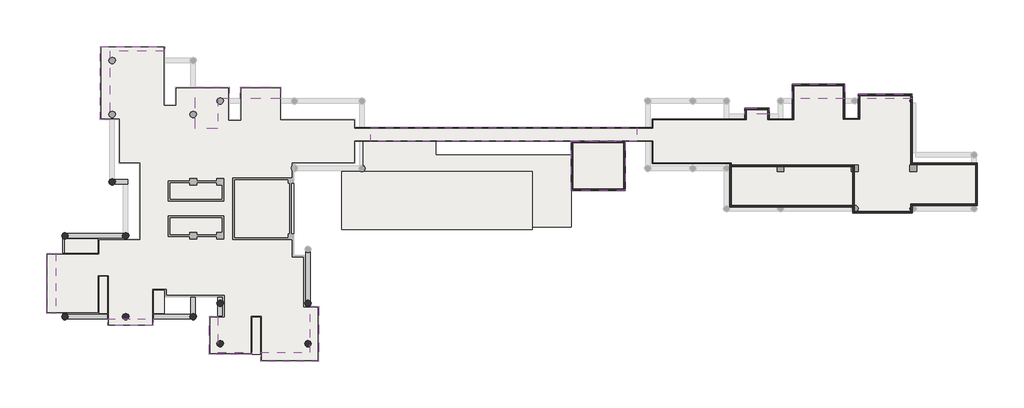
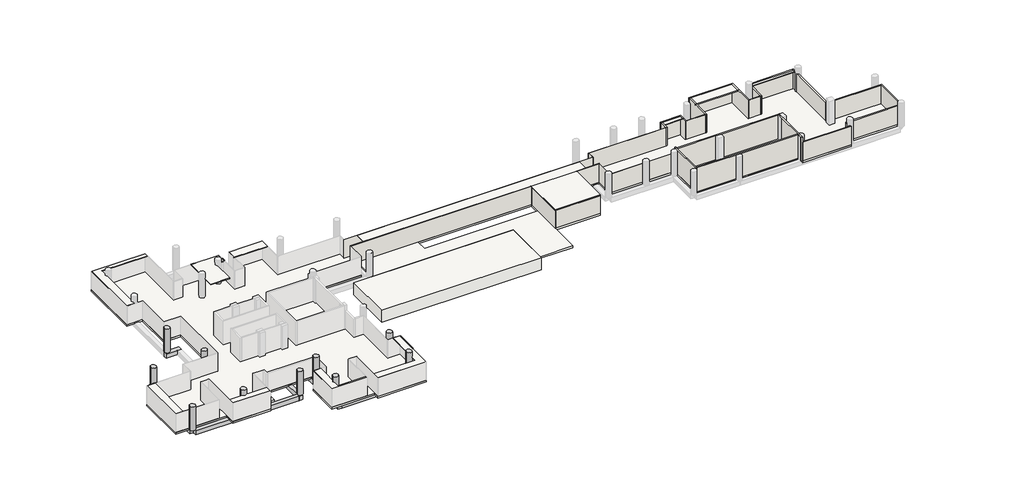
# One storey, part 2 of 3: 32 walls, 14 beams, 14 slabs, 10 columns.
"""IFC4 building model written with IfcOpenShell, lengths in millimetres."""

from ifc_helpers import new_model, si_unit, point, frame, frame_2d, origin, place, context, project, spatial, polyline, circle_curve, trimmed, segment, composite_curve, outline, extrude, faceted_brep, transform, mapped, element, save
from components import ajn_arc_ossature_rec_ba_700x600_5242ffbb, ajn_arc_ossature_rec_ba_700x600_4d623bda, ajn_arc_ossature_rec_ba_700x600_1618760c, ajn_arc_ossature_rec_ba_700x600_74f247c5, ajn_arc_ossature_rec_ba_700x600_5363c8ec, ajn_arc_ossature_rec_ba_700x600_64ced9d5, ajn_arc_ossature_rec_ba_700x600_cc927ea2, ajn_arc_ossature_rec_ba_700x600_2fd1ddb7, ajn_arc_ossature_rec_ba_700x600_5c9015f2, ajn_arc_ossature_rec_ba_700x600_09f7f53f, ajn_arc_ossature_rec_ba_700x600_428e4c06, ajn_arc_ossature_rec_ba_700x600_c2a8f1af, ajn_arc_ossature_rec_ba_700x600_4319a5e8, ajn_arc_ossature_rec_ba_700x600_f102b2b9, ajn_arc_poteau_circulaire_86033a3a

model = new_model("IFC4")

# Units and contexts
model_context = context("Model", 3, world=origin())
ifc_project = project(units=[si_unit("LENGTHUNIT", "METRE", prefix="MILLI")], contexts=[model_context])

# Site, building, storey
site = spatial("IfcSite", under=ifc_project)
building = spatial("IfcBuilding", under=site)
storey = spatial("IfcBuildingStorey", under=building, Name="TW-L 02", Elevation=5999.9999686)

# Beams
placement = place(None, origin())
ajn_arc_ossature_rec_ba_700x600_shape = ajn_arc_ossature_rec_ba_700x600_5242ffbb(model_context)
element("IfcBeam", 1, ObjectType="AJN-ARC-OSSATURE REC-BA : 700x600", at=placement, inside=storey, context=model_context, shape_type="MappedRepresentation", body=[
    mapped(ajn_arc_ossature_rec_ba_700x600_shape, transform((45100.0, 6450.0, 5449.9999686), x_axis=(0.0, -1.0, 0.0), y_axis=(1.0, 0.0, 0.0), z_axis=(0.0, 0.0, 1.0))),
])
ajn_arc_ossature_rec_ba_700x600_2_shape = ajn_arc_ossature_rec_ba_700x600_4d623bda(model_context)
element("IfcBeam", 2, ObjectType="AJN-ARC-OSSATURE REC-BA : 700x600", at=placement, inside=storey, context=model_context, shape_type="MappedRepresentation", body=[
    mapped(ajn_arc_ossature_rec_ba_700x600_2_shape, transform((56800.0, 6450.0, 5449.9999686), x_axis=(0.0, 1.0, 0.0), y_axis=(-1.0, 0.0, 0.0), z_axis=(0.0, 0.0, 1.0))),
])
ajn_arc_ossature_rec_ba_700x600_3_shape = ajn_arc_ossature_rec_ba_700x600_1618760c(model_context)
element("IfcBeam", 3, ObjectType="AJN-ARC-OSSATURE REC-BA : 700x600", at=placement, inside=storey, context=model_context, shape_type="MappedRepresentation", body=[
    mapped(ajn_arc_ossature_rec_ba_700x600_3_shape, transform((41500.0, 12500.0, 5449.9999686), x_axis=(0.0, 1.0, 0.0), y_axis=(-1.0, 0.0, 0.0), z_axis=(0.0, 0.0, 1.0))),
])
ajn_arc_ossature_rec_ba_700x600_4_shape = ajn_arc_ossature_rec_ba_700x600_74f247c5(model_context)
element("IfcBeam", 4, ObjectType="AJN-ARC-OSSATURE REC-BA : 700x600", at=placement, inside=storey, context=model_context, shape_type="MappedRepresentation", body=[
    mapped(ajn_arc_ossature_rec_ba_700x600_4_shape, transform((43300.0, 14500.0, 5449.9999686), x_axis=(1.0, 0.0, 0.0), y_axis=(0.0, 1.0, 0.0), z_axis=(0.0, 0.0, 1.0))),
])
ajn_arc_ossature_rec_ba_700x600_5_shape = ajn_arc_ossature_rec_ba_700x600_5363c8ec(model_context)
element("IfcBeam", 5, ObjectType="AJN-ARC-OSSATURE REC-BA : 700x600", at=placement, inside=storey, context=model_context, shape_type="MappedRepresentation", body=[
    mapped(ajn_arc_ossature_rec_ba_700x600_5_shape, transform((45100.0, 13400.0, 5449.9999686), x_axis=(0.0, -1.0, 0.0), y_axis=(1.0, 0.0, 0.0), z_axis=(0.0, 0.0, 1.0))),
])
ajn_arc_ossature_rec_ba_700x600_6_shape = ajn_arc_ossature_rec_ba_700x600_64ced9d5(model_context)
element("IfcBeam", 6, ObjectType="AJN-ARC-OSSATURE REC-BA : 700x600", at=placement, inside=storey, context=model_context, shape_type="MappedRepresentation", body=[
    mapped(ajn_arc_ossature_rec_ba_700x600_6_shape, transform((24400.0, 15900.0, 5449.9999686), x_axis=(0.0, -1.0, 0.0), y_axis=(1.0, 0.0, 0.0), z_axis=(0.0, 0.0, 1.0))),
])
ajn_arc_ossature_rec_ba_700x600_7_shape = ajn_arc_ossature_rec_ba_700x600_cc927ea2(model_context)
element("IfcBeam", 7, ObjectType="AJN-ARC-OSSATURE REC-BA : 700x600", at=placement, inside=storey, context=model_context, shape_type="MappedRepresentation", body=[
    mapped(ajn_arc_ossature_rec_ba_700x600_7_shape, transform((37000.0, 10500.0, 5449.9999686), x_axis=(1.0, 0.0, 0.0), y_axis=(0.0, 1.0, 0.0), z_axis=(0.0, 0.0, 1.0))),
])
ajn_arc_ossature_rec_ba_700x600_8_shape = ajn_arc_ossature_rec_ba_700x600_2fd1ddb7(model_context)
element("IfcBeam", 8, ObjectType="AJN-ARC-OSSATURE REC-BA : 700x600", at=placement, inside=storey, context=model_context, shape_type="MappedRepresentation", body=[
    mapped(ajn_arc_ossature_rec_ba_700x600_8_shape, transform((31600.0, 28500.0, 5449.9999686), x_axis=(1.0, 0.0, 0.0), y_axis=(0.0, 1.0, 0.0), z_axis=(0.0, 0.0, 1.0))),
])
ajn_arc_ossature_rec_ba_700x600_9_shape = ajn_arc_ossature_rec_ba_700x600_5c9015f2(model_context)
element("IfcBeam", 9, ObjectType="AJN-ARC-OSSATURE REC-BA : 700x600", at=placement, inside=storey, context=model_context, shape_type="MappedRepresentation", body=[
    mapped(ajn_arc_ossature_rec_ba_700x600_9_shape, transform((45100.0, 9600.0, 5449.9999686), x_axis=(0.0, -1.0, 0.0), y_axis=(1.0, 0.0, 0.0), z_axis=(0.0, 0.0, 1.0))),
])
ajn_arc_ossature_rec_ba_700x600_10_shape = ajn_arc_ossature_rec_ba_700x600_09f7f53f(model_context)
element("IfcBeam", 10, ObjectType="AJN-ARC-OSSATURE REC-BA : 700x600", at=placement, inside=storey, context=model_context, shape_type="MappedRepresentation", body=[
    mapped(ajn_arc_ossature_rec_ba_700x600_10_shape, transform((50950.0, 6000.0, 5449.9999686), x_axis=(1.0, 0.0, 0.0), y_axis=(0.0, 1.0, 0.0), z_axis=(0.0, 0.0, 1.0))),
])
ajn_arc_ossature_rec_ba_700x600_11_shape = ajn_arc_ossature_rec_ba_700x600_428e4c06(model_context)
element("IfcBeam", 11, ObjectType="AJN-ARC-OSSATURE REC-BA : 700x600", at=placement, inside=storey, context=model_context, shape_type="MappedRepresentation", body=[
    mapped(ajn_arc_ossature_rec_ba_700x600_11_shape, transform((56800.0, 9600.0, 5449.9999686), x_axis=(0.0, 1.0, 0.0), y_axis=(-1.0, 0.0, 0.0), z_axis=(0.0, 0.0, 1.0))),
])
ajn_arc_ossature_rec_ba_700x600_12_shape = ajn_arc_ossature_rec_ba_700x600_c2a8f1af(model_context)
element("IfcBeam", 12, ObjectType="AJN-ARC-OSSATURE REC-BA : 700x600", at=placement, inside=storey, context=model_context, shape_type="MappedRepresentation", body=[
    mapped(ajn_arc_ossature_rec_ba_700x600_12_shape, transform((56800.0, 15900.0, 5449.9999686), x_axis=(0.0, 1.0, 0.0), y_axis=(-1.0, 0.0, 0.0), z_axis=(0.0, 0.0, 1.0))),
])
ajn_arc_ossature_rec_ba_700x600_13_shape = ajn_arc_ossature_rec_ba_700x600_4319a5e8(model_context)
element("IfcBeam", 13, ObjectType="AJN-ARC-OSSATURE REC-BA : 700x600", at=placement, inside=storey, context=model_context, shape_type="MappedRepresentation", body=[
    mapped(ajn_arc_ossature_rec_ba_700x600_13_shape, transform((28450.0, 10500.0, 5449.9999686), x_axis=(1.0, 0.0, 0.0), y_axis=(0.0, 1.0, 0.0), z_axis=(0.0, 0.0, 1.0))),
])
ajn_arc_ossature_rec_ba_700x600_14_shape = ajn_arc_ossature_rec_ba_700x600_f102b2b9(model_context)
element("IfcBeam", 14, ObjectType="AJN-ARC-OSSATURE REC-BA : 700x600", at=placement, inside=storey, context=model_context, shape_type="MappedRepresentation", body=[
    mapped(ajn_arc_ossature_rec_ba_700x600_14_shape, transform((28450.0, 21300.0, 5449.9999686), x_axis=(-1.0, 0.0, 0.0), y_axis=(0.0, -1.0, 0.0), z_axis=(0.0, 0.0, 1.0))),
])

# Columns
element("IfcColumn", 15, ObjectType="AJN-ARC-POTEAU CIRCULAIRE : ø90", at=placement, inside=storey, context=model_context, shape_type="SweptSolid", body=[
    extrude(outline(composite_curve([segment(trimmed(circle_curve(frame_2d((32500.0, 21300.0)), 450.0), [point((32050.0, 21300.0))], [point((32950.0, 21300.0))], False, "CARTESIAN"), True, "CONTINUOUS"), segment(trimmed(circle_curve(frame_2d((32500.0, 21300.0)), 450.0), [point((32950.0, 21300.0))], [point((32050.0, 21300.0))], False, "CARTESIAN"), True, "CONTINUOUS")], self_intersect=False)), frame((0.0, 0.0, 5999.9999686), z_axis=(0.0, 0.0, 1.0), x_axis=(1.0, 0.0, 0.0)), (0.0, 0.0, 1.0), 4000.0),
])
element("IfcColumn", 16, ObjectType="AJN-ARC-POTEAU CIRCULAIRE : ø90", at=placement, inside=storey, context=model_context, shape_type="SweptSolid", body=[
    extrude(outline(composite_curve([segment(trimmed(circle_curve(frame_2d((45100.0, 12300.0)), 450.0), [point((44650.0, 12300.0))], [point((45550.0, 12300.0))], False, "CARTESIAN"), True, "CONTINUOUS"), segment(trimmed(circle_curve(frame_2d((45100.0, 12300.0)), 450.0), [point((45550.0, 12300.0))], [point((44650.0, 12300.0))], False, "CARTESIAN"), True, "CONTINUOUS")], self_intersect=False)), frame((0.0, 0.0, 5999.9999686), z_axis=(0.0, 0.0, 1.0), x_axis=(1.0, 0.0, 0.0)), (0.0, 0.0, 1.0), 4000.0),
])
element("IfcColumn", 17, ObjectType="AJN-ARC-POTEAU CIRCULAIRE : ø90", at=placement, inside=storey, context=model_context, shape_type="SweptSolid", body=[
    extrude(outline(composite_curve([segment(trimmed(circle_curve(frame_2d((56800.0, 12300.0)), 450.0), [point((56350.0, 12300.0))], [point((57250.0, 12300.0))], False, "CARTESIAN"), True, "CONTINUOUS"), segment(trimmed(circle_curve(frame_2d((56800.0, 12300.0)), 450.0), [point((57250.0, 12300.0))], [point((56350.0, 12300.0))], False, "CARTESIAN"), True, "CONTINUOUS")], self_intersect=False)), frame((0.0, 0.0, 5999.9999686), z_axis=(0.0, 0.0, 1.0), x_axis=(1.0, 0.0, 0.0)), (0.0, 0.0, 1.0), 4000.0),
])
ajn_arc_poteau_circulaire_shape = ajn_arc_poteau_circulaire_86033a3a(model_context)
element("IfcColumn", 18, ObjectType="AJN-ARC-POTEAU CIRCULAIRE : ø90", at=placement, inside=storey, context=model_context, shape_type="MappedRepresentation", body=[
    mapped(ajn_arc_poteau_circulaire_shape, transform((24400.0, 21300.0, 0.0), x_axis=(1.0, 0.0, 0.0), y_axis=(0.0, 1.0, 0.0), z_axis=(0.0, 0.0, 1.0))),
])
element("IfcColumn", 19, ObjectType="AJN-ARC-POTEAU CIRCULAIRE : ø90", at=placement, inside=storey, context=model_context, shape_type="MappedRepresentation", body=[
    mapped(ajn_arc_poteau_circulaire_shape, transform((24400.0, 10500.0, 0.0), x_axis=(1.0, 0.0, 0.0), y_axis=(0.0, 1.0, 0.0), z_axis=(0.0, 0.0, 1.0))),
])
element("IfcColumn", 20, ObjectType="AJN-ARC-POTEAU CIRCULAIRE : ø90", at=placement, inside=storey, context=model_context, shape_type="MappedRepresentation", body=[
    mapped(ajn_arc_poteau_circulaire_shape, transform((32500.0, 10500.0, 0.0), x_axis=(1.0, 0.0, 0.0), y_axis=(0.0, 1.0, 0.0), z_axis=(0.0, 0.0, 1.0))),
])
element("IfcColumn", 21, ObjectType="AJN-ARC-POTEAU CIRCULAIRE : ø90", at=placement, inside=storey, context=model_context, shape_type="MappedRepresentation", body=[
    mapped(ajn_arc_poteau_circulaire_shape, transform((45100.0, 6900.0, 0.0), x_axis=(1.0, 0.0, 0.0), y_axis=(0.0, 1.0, 0.0), z_axis=(0.0, 0.0, 1.0))),
])
element("IfcColumn", 22, ObjectType="AJN-ARC-POTEAU CIRCULAIRE : ø90", at=placement, inside=storey, context=model_context, shape_type="MappedRepresentation", body=[
    mapped(ajn_arc_poteau_circulaire_shape, transform((56800.0, 6900.0, 0.0), x_axis=(1.0, 0.0, 0.0), y_axis=(0.0, 1.0, 0.0), z_axis=(0.0, 0.0, 1.0))),
])
element("IfcColumn", 23, ObjectType="AJN-ARC-POTEAU CIRCULAIRE : ø90", at=placement, inside=storey, context=model_context, shape_type="MappedRepresentation", body=[
    mapped(ajn_arc_poteau_circulaire_shape, transform((41500.0, 10500.0, 0.0), x_axis=(1.0, 0.0, 0.0), y_axis=(0.0, 1.0, 0.0), z_axis=(0.0, 0.0, 1.0))),
])
element("IfcColumn", 24, ObjectType="AJN-ARC-POTEAU CIRCULAIRE : ø90", at=placement, inside=storey, context=model_context, shape_type="MappedRepresentation", body=[
    mapped(ajn_arc_poteau_circulaire_shape, transform((30700.0, 28500.0, 0.0), x_axis=(1.0, 0.0, 0.0), y_axis=(0.0, 1.0, 0.0), z_axis=(0.0, 0.0, 1.0))),
])

# Slabs
element("IfcSlab", 25, ObjectType="AJN-ARC-SLAB-10cm", at=placement, inside=storey, context=model_context, shape_type="SweptSolid", body=[
    extrude(outline(polyline([(37700.0, 46550.0), (37700.0, 45900.0), (30400.0, 45900.0), (30400.0, 36800.0010731), (29100.0, 36800.0010731), (29100.0, 46550.0), (37700.0, 46550.0)])), frame((0.0, 0.0, 8999.9999686), z_axis=(0.0, 0.0, 1.0), x_axis=(1.0, 0.0, 0.0)), (0.0, 0.0, 1.0), 100.0),
])
element("IfcSlab", 26, ObjectType="AJN-ARC-SLAB-10cm", at=placement, inside=storey, context=model_context, shape_type="SweptSolid", body=[
    extrude(outline(polyline([(21950.0, 10950.0), (21950.0, 18900.0), (23200.0, 18900.0), (23200.0, 10950.0), (21950.0, 10950.0)])), frame((0.0, 0.0, 8999.9999686), z_axis=(0.0, 0.0, 1.0), x_axis=(1.0, 0.0, 0.0)), (0.0, 0.0, 1.0), 100.0),
])
element("IfcSlab", 27, ObjectType="AJN-ARC-SLAB-10cm", at=placement, inside=storey, context=model_context, shape_type="SweptSolid", body=[
    extrude(outline(polyline([(36150.0, 9300.0), (30100.0, 9300.0), (30100.0, 10200.0), (36150.0, 10200.0), (36150.0, 9300.0)])), frame((0.0, 0.0, 8999.9999686), z_axis=(0.0, 0.0, 1.0), x_axis=(1.0, 0.0, 0.0)), (0.0, 0.0, 1.0), 100.0),
])
element("IfcSlab", 28, ObjectType="AJN-ARC-SLAB-10cm", at=placement, inside=storey, context=model_context, shape_type="SweptSolid", body=[
    extrude(outline(polyline([(43650.0, 5450.0), (43650.0, 10500.0), (44800.0, 10500.0), (44800.0, 5700.0), (49300.0, 5700.0), (49300.0, 5450.0), (43650.0, 5450.0)])), frame((0.0, 0.0, 8999.9999686), z_axis=(0.0, 0.0, 1.0), x_axis=(1.0, 0.0, 0.0)), (0.0, 0.0, 1.0), 100.0),
])
element("IfcSlab", 29, ObjectType="AJN-ARC-SLAB-10cm", at=placement, inside=storey, context=model_context, shape_type="SweptSolid", body=[
    extrude(outline(polyline([(50500.0, 4550.0), (50500.0, 5700.0), (57100.0, 5700.0), (57100.0, 11850.0), (58250.0, 11850.0), (58250.0, 4550.0), (50500.0, 4550.0)])), frame((0.0, 0.0, 8999.9999686), z_axis=(0.0, 0.0, 1.0), x_axis=(1.0, 0.0, 0.0)), (0.0, 0.0, 1.0), 100.0),
])
element("IfcSlab", 30, ObjectType="AJN-ARC-SLAB-10cm", at=placement, inside=storey, context=model_context, shape_type="SweptSolid", body=[
    extrude(outline(polyline([(47800.0, 39600.0), (47800.0, 41100.0), (53200.0, 41100.0), (53200.0, 39600.0), (47800.0, 39600.0)])), frame((0.0, 0.0, 8999.9999686), z_axis=(0.0, 0.0, 1.0), x_axis=(1.0, 0.0, 0.0)), (0.0, 0.0, 1.0), 100.0),
])
element("IfcSlab", 31, ObjectType="AJN-ARC-SLAB-10cm", at=placement, inside=storey, context=model_context, shape_type="SweptSolid", body=[
    extrude(outline(polyline([(41800.0, 35600.0), (41800.0, 41100.0), (46300.0, 41100.0), (46300.0, 39600.0), (44800.0, 39600.0), (44800.0, 35600.0), (41800.0, 35600.0)])), frame((0.0, 0.0, 8999.9999686), z_axis=(0.0, 0.0, 1.0), x_axis=(1.0, 0.0, 0.0)), (0.0, 0.0, 1.0), 100.0),
])
element("IfcSlab", 32, ObjectType="AJN-ARC-SLAB-10cm", at=placement, inside=storey, context=model_context, shape_type="SweptSolid", body=[
    extrude(outline(polyline([(65200.0, 35700.0776234), (100600.0, 35700.0054645), (100600.0, 33900.0), (65200.0, 33900.0), (65200.0, 35700.0776234)])), frame((0.0, 0.0, 8999.9999686), z_axis=(0.0, 0.0, 1.0), x_axis=(1.0, 0.0, 0.0)), (0.0, 0.0, 1.0), 100.0),
])
element("IfcSlab", 33, ObjectType="AJN-ARC-SLAB-10cm", at=placement, inside=storey, context=model_context, shape_type="Brep", body=[
    faceted_brep([(99100.0, 33900.0, 8999.9999686), (99100.0, 33700.0, 8999.9999686), (99100.0, 27499.4967779, 8999.9999686), (99100.0, 27299.4967779, 8999.9999686), (92100.0, 27299.4967779, 8999.9999686), (91900.0, 27299.4967779, 8999.9999686), (91900.0, 33700.0, 8999.9999686), (91900.0, 33900.0, 8999.9999686), (99100.0, 33900.0, 9099.9999686), (91900.0, 33900.0, 9099.9999686), (91900.0, 27299.4967779, 9099.9999686), (99100.0, 27299.4967779, 9099.9999686)], [[[0, 1, 2, 3, 4, 5, 6, 7]], [[8, 9, 10, 11]], [[3, 2, 1, 0, 8, 11]], [[5, 4, 3, 11, 10]], [[7, 6, 5, 10, 9]], [[0, 7, 9, 8]]]),
])
element("IfcSlab", 34, ObjectType="AJN-ARC-SLAB-10cm", at=placement, inside=storey, context=model_context, shape_type="SweptSolid", body=[
    extrude(outline(polyline([(115000.0, 38350.0), (118300.0, 38350.0), (118300.0, 37500.0), (115000.0, 37500.0), (115000.0, 38350.0)])), frame((0.0, 0.0, 8999.9999686), z_axis=(0.0, 0.0, 1.0), x_axis=(1.0, 0.0, 0.0)), (0.0, 0.0, 1.0), 100.0),
])
element("IfcSlab", 35, ObjectType="AJN-ARC-SLAB-10cm", at=placement, inside=storey, context=model_context, shape_type="SweptSolid", body=[
    extrude(outline(polyline([(121350.0, 41500.0), (128350.0, 41500.0), (128350.0, 39600.0), (121350.0, 39600.0), (121350.0, 41500.0)])), frame((0.0, 0.0, 8999.9999686), z_axis=(0.0, 0.0, 1.0), x_axis=(1.0, 0.0, 0.0)), (0.0, 0.0, 1.0), 100.0),
])
element("IfcSlab", 36, ObjectType="AJN-ARC-SLAB-10cm", at=placement, inside=storey, context=model_context, shape_type="SweptSolid", body=[
    extrude(outline(polyline([(130150.0, 40200.0), (137350.0000209, 40200.0), (137350.0000191, 39600.0), (130150.0, 39600.0), (130150.0, 40200.0)])), frame((0.0, 0.0, 8999.9999686), z_axis=(0.0, 0.0, 1.0), x_axis=(1.0, 0.0, 0.0)), (0.0, 0.0, 1.0), 100.0),
])
element("IfcSlab", 37, ObjectType="AJN-ARC-SLAB-30cm", at=placement, inside=storey, context=model_context, shape_type="SweptSolid", body=[
    extrude(outline(polyline([(64150.0790143, 29850.0000057), (64149.8640097, 33900.0), (63099.8640082, 33900.0), (63100.0206164, 30950.0007569), (54900.0, 30950.0007569), (54900.0, 18650.0), (56300.0, 18650.0), (56300.0, 11850.0), (58250.0, 11850.0), (58250.0, 4550.0), (50500.0, 4550.0), (50500.0, 5450.0), (43650.0, 5450.0), (43650.0, 10500.0), (45600.0, 10500.0), (45600.0, 13150.0), (37650.0, 13150.0), (37650.0, 10950.0), (36150.0, 10950.0), (36150.0, 9300.0), (30100.0, 9300.0), (30100.0, 10950.0), (21950.0, 10950.0), (21950.0, 18900.0), (24399.9998451, 18900.0), (24400.0000005, 20850.0), (34300.0, 20850.0), (34300.0, 30950.0), (31600.0, 30950.0), (31600.0, 36800.0010731), (29100.0, 36800.0010731), (29100.0, 46550.0000014), (37700.0, 46550.0), (37700.0, 38750.0), (39100.0, 38750.0), (39100.0, 41100.0), (46300.0, 41100.0), (46300.0, 36800.0029729), (47800.0, 36800.0029729), (47800.0, 41100.0), (53200.0, 41100.0), (53200.0, 36849.7950591), (63100.0, 36850.0), (63100.0, 35700.0819041), (102700.015769, 35700.0011839), (102699.9963208, 36848.9994418), (115000.0, 36850.0), (115000.0, 38350.0), (118300.0, 38350.0), (118300.0, 36850.0), (121350.0, 36850.0), (121350.0, 41500.0), (128350.0, 41500.0), (128350.0, 36850.0), (130150.0, 36850.0), (130150.0, 40200.0), (137350.0000209, 40200.0), (137349.9999927, 30999.9999938), (146049.9999996, 31000.0000071), (146049.9999996, 25349.9999685), (137349.999978, 25350.0000471), (137349.9999723, 24300.0), (129600.0, 24300.0), (129600.0, 25150.0), (113050.0, 25150.0), (113050.0, 30949.9609919), (102700.0, 30950.011628), (102700.0, 33899.9891288), (99100.0, 33899.9891288), (99100.0, 27299.4967779), (91900.0, 27299.4967779), (91900.0, 22450.0000042), (86699.5343943, 22450.0000279), (86699.5343943, 29850.0), (64150.0790143, 29850.0000057)]), holes=[polyline([(73899.9990178, 33898.9995462), (73899.9990179, 32148.9987938), (91899.9990179, 32148.9877178), (91899.9990179, 33898.9884702), (73899.9990178, 33898.9995462)])]), frame((0.0, 0.0, 5699.9999686), z_axis=(0.0, 0.0, 1.0), x_axis=(1.0, 0.0, 0.0)), (0.0, 0.0, 1.0), 300.0),
])
element("IfcSlab", 38, ObjectType="AJN-ARC-SWIMMING POOL-200cm", at=placement, inside=storey, context=model_context, shape_type="SweptSolid", body=[
    extrude(outline(polyline([(86699.5343943, 22148.0940655), (61300.0, 22148.0940655), (61300.0, 29850.0), (86699.5343943, 29850.0), (86699.5343943, 22148.0940655)])), frame((0.0, 0.0, 3999.9999686), z_axis=(0.0, 0.0, 1.0), x_axis=(1.0, 0.0, 0.0)), (0.0, 0.0, 1.0), 2000.0),
])

# Walls
element("IfcWall", 39, ObjectType="AJN-ARC-CONCRETE WALL-20cm", at=placement, inside=storey, context=model_context, shape_type="Brep", body=[
    faceted_brep([(113050.0, 30750.0, 5999.9999686), (113050.0, 25150.0, 5999.9999686), (113050.0, 25150.0, 9999.9999686), (113050.0, 30750.0, 9999.9999686), (113250.0, 30750.0, 5999.9999686), (113250.0, 30750.0, 9999.9999686), (113250.0, 30550.0, 9999.9999686), (113250.0, 25350.0, 9999.9999686), (113250.0, 25150.0, 9999.9999686), (113250.0, 25150.0, 5999.9999686), (113250.0, 25350.0, 5999.9999686), (113250.0, 30550.0, 5999.9999686)], [[[0, 1, 2, 3]], [[4, 5, 6, 7, 8, 9, 10, 11]], [[1, 0, 4, 11, 10, 9]], [[3, 2, 8, 7, 6, 5]], [[0, 3, 5, 4]], [[2, 1, 9, 8]]]),
])
element("IfcWall", 40, ObjectType="AJN-ARC-CONCRETE WALL-20cm", at=placement, inside=storey, context=model_context, shape_type="Brep", body=[
    faceted_brep([(113250.0, 25150.0, 5999.9999686), (119425.8342613, 25150.0, 5999.9999686), (120174.1657387, 25150.0, 5999.9999686), (129325.8342613, 25150.0, 5999.9999686), (129400.0, 25150.0, 5999.9999686), (129400.0, 25150.0, 9999.9999686), (129325.8342613, 25150.0, 9999.9999686), (120174.1657387, 25150.0, 9999.9999686), (119425.8342613, 25150.0, 9999.9999686), (113250.0, 25150.0, 9999.9999686), (113250.0, 25350.0, 5999.9999686), (113250.0, 25350.0, 9999.9999686), (129400.0, 25350.0, 9999.9999686), (129400.0, 25350.0, 5999.9999686)], [[[0, 1, 2, 3, 4, 5, 6, 7, 8, 9]], [[10, 11, 12, 13]], [[4, 3, 2, 1, 0, 10, 13]], [[9, 8, 7, 6, 5, 12, 11]], [[0, 9, 11, 10]], [[5, 4, 13, 12]]]),
])
element("IfcWall", 41, ObjectType="AJN-ARC-CONCRETE WALL-20cm", at=placement, inside=storey, context=model_context, shape_type="Brep", body=[
    faceted_brep([(129600.0, 24300.0, 5999.9999686), (129600.0, 24500.0, 5999.9999686), (129600.0, 25338.7482194, 5999.9999686), (129600.0, 29850.0, 5999.9999686), (129600.0, 30750.0, 5999.9999686), (129600.0, 30750.0, 9999.9999686), (129600.0, 29850.0, 9999.9999686), (129600.0, 25338.7482194, 9999.9999686), (129600.0, 24461.2517806, 9999.9999686), (129600.0, 24300.0, 9999.9999686), (129600.0, 24300.0, 9099.9999686), (129400.0, 24300.0, 5999.9999686), (129400.0, 24300.0, 9999.9999686), (129400.0, 24564.5898034, 9999.9999686), (129400.0, 25150.0, 9999.9999686), (129400.0, 25350.0, 9999.9999686), (129400.0, 29850.0, 9999.9999686), (129400.0, 30550.0, 9999.9999686), (129400.0, 30750.0, 9999.9999686), (129400.0, 30750.0, 5999.9999686), (129400.0, 30550.0, 5999.9999686), (129400.0, 29850.0, 5999.9999686), (129400.0, 25350.0, 5999.9999686), (129400.0, 25150.0, 5999.9999686), (129400.0, 24564.5898034, 5999.9999686)], [[[0, 1, 2, 3, 4, 5, 6, 7, 8, 9, 10]], [[11, 12, 13, 14, 15, 16, 17, 18, 19, 20, 21, 22, 23, 24]], [[4, 3, 2, 1, 0, 11, 24, 23, 22, 21, 20, 19]], [[9, 8, 7, 6, 5, 18, 17, 16, 15, 14, 13, 12]], [[5, 4, 19, 18]], [[0, 10, 9, 12, 11]]]),
])
element("IfcWall", 42, ObjectType="AJN-ARC-CONCRETE WALL-20cm", at=placement, inside=storey, context=model_context, shape_type="Brep", body=[
    faceted_brep([(129400.0, 30750.0, 5999.9999686), (113250.0, 30750.0, 5999.9999686), (113250.0, 30750.0, 9999.9999686), (129400.0, 30750.0, 9999.9999686), (129400.0, 30550.0, 5999.9999686), (129400.0, 30550.0, 9999.9999686), (129250.0, 30550.0, 9999.9999686), (120250.0, 30550.0, 9999.9999686), (119350.0, 30550.0, 9999.9999686), (113250.0, 30550.0, 9999.9999686), (113250.0, 30550.0, 5999.9999686), (119350.0, 30550.0, 5999.9999686), (120250.0, 30550.0, 5999.9999686), (129250.0, 30550.0, 5999.9999686)], [[[0, 1, 2, 3]], [[4, 5, 6, 7, 8, 9, 10, 11, 12, 13]], [[1, 0, 4, 13, 12, 11, 10]], [[3, 2, 9, 8, 7, 6, 5]], [[0, 3, 5, 4]], [[2, 1, 10, 9]]]),
])
element("IfcWall", 43, ObjectType="AJN-ARC-CONCRETE WALL-20cm", at=placement, inside=storey, context=model_context, shape_type="Brep", body=[
    faceted_brep([(129600.0, 24300.0, 5999.9999686), (137349.9999723, 24300.0, 5999.9999686), (137349.9999723, 24300.0, 9099.9999686), (129600.0, 24300.0, 9099.9999686), (129600.0, 24500.0, 5999.9999686), (129600.0, 24500.0, 9099.9999686), (129906.1552813, 24500.0, 9099.9999686), (137149.9999734, 24500.0, 9099.9999686), (137349.9999734, 24500.0, 9099.9999686), (137349.9999734, 24500.0, 5999.9999686), (137149.9999734, 24500.0, 5999.9999686), (129906.1552813, 24500.0, 5999.9999686), (137349.9999732, 24475.7359408, 5999.9999686), (137349.9999732, 24475.7359408, 9099.9999686), (129600.0, 24461.2517806, 9099.9999686)], [[[0, 1, 2, 3]], [[4, 5, 6, 7, 8, 9, 10, 11]], [[1, 0, 4, 11, 10, 9, 12]], [[3, 2, 13, 8, 7, 6, 5, 14]], [[2, 1, 12, 9, 8, 13]], [[0, 3, 14, 5, 4]]]),
])
element("IfcWall", 44, ObjectType="AJN-ARC-CONCRETE WALL-20cm", at=placement, inside=storey, context=model_context, shape_type="Brep", body=[
    faceted_brep([(137349.9999734, 24500.0, 5999.9999686), (137349.9999779, 25324.2640609, 5999.9999686), (137349.999978, 25350.0000471, 5999.9999686), (137349.9999791, 25550.0000471, 5999.9999686), (137349.9999791, 25550.0000471, 9099.9999686), (137349.999978, 25350.0000471, 9099.9999686), (137349.9999779, 25324.2640609, 9099.9999686), (137349.9999734, 24500.0, 9099.9999686), (137149.9999734, 24500.0, 5999.9999686), (137149.9999734, 24500.0, 9099.9999686), (137149.999974, 24617.1573197, 9099.9999686), (137149.9999771, 25182.8426841, 9099.9999686), (137149.9999791, 25550.0000489, 9099.9999686), (137149.9999791, 25550.0000489, 5999.9999686), (137149.9999771, 25182.8426841, 5999.9999686), (137149.999974, 24617.1573197, 5999.9999686)], [[[0, 1, 2, 3, 4, 5, 6, 7]], [[8, 9, 10, 11, 12, 13, 14, 15]], [[3, 2, 1, 0, 8, 15, 14, 13]], [[7, 6, 5, 4, 12, 11, 10, 9]], [[0, 7, 9, 8]], [[4, 3, 13, 12]]]),
])
element("IfcWall", 45, ObjectType="AJN-ARC-CONCRETE WALL-20cm", at=placement, inside=storey, context=model_context, shape_type="Brep", body=[
    faceted_brep([(137349.999978, 25350.0000471, 5999.9999686), (146049.9999996, 25349.9999685, 5999.9999686), (146049.9999996, 25349.9999685, 9099.9999686), (137349.999978, 25350.0000471, 9099.9999686), (137349.9999791, 25550.0000471, 5999.9999686), (137349.9999791, 25550.0000471, 9099.9999686), (145849.9999996, 25549.9999703, 9099.9999686), (146049.9999996, 25549.9999685, 9099.9999686), (146049.9999996, 25549.9999685, 5999.9999686), (145849.9999996, 25549.9999703, 5999.9999686)], [[[0, 1, 2, 3]], [[4, 5, 6, 7, 8, 9]], [[1, 0, 4, 9, 8]], [[3, 2, 7, 6, 5]], [[2, 1, 8, 7]], [[0, 3, 5, 4]]]),
])
element("IfcWall", 46, ObjectType="AJN-ARC-CONCRETE WALL-20cm", at=placement, inside=storey, context=model_context, shape_type="Brep", body=[
    faceted_brep([(146049.9999996, 25549.9999685, 5999.9999686), (146049.9999996, 31000.0000069, 5999.9999686), (146049.9999996, 31000.0000069, 9099.9999686), (146049.9999996, 25549.9999685, 9099.9999686), (145849.9999996, 25549.9999703, 5999.9999686), (145849.9999996, 25549.9999703, 9099.9999686), (145849.9999996, 30800.0000069, 9099.9999686), (145849.9999996, 31000.0000069, 9099.9999686), (145849.9999996, 31000.0000069, 5999.9999686), (145849.9999996, 30800.0000069, 5999.9999686)], [[[0, 1, 2, 3]], [[4, 5, 6, 7, 8, 9]], [[1, 0, 4, 9, 8]], [[3, 2, 7, 6, 5]], [[2, 1, 8, 7]], [[0, 3, 5, 4]]]),
])
element("IfcWall", 47, ObjectType="AJN-ARC-CONCRETE WALL-20cm", at=placement, inside=storey, context=model_context, shape_type="Brep", body=[
    faceted_brep([(145849.9999996, 31000.0000069, 5999.9999686), (137349.9999927, 31000.0000069, 5999.9999686), (137149.9999927, 31000.0000069, 5999.9999686), (137149.9999927, 31000.0000069, 9099.9999686), (137349.9999927, 31000.0000069, 9099.9999686), (145849.9999996, 31000.0000069, 9099.9999686), (145849.9999996, 30800.0000069, 5999.9999686), (145849.9999996, 30800.0000069, 9099.9999686), (137149.999992, 30800.0000069, 9099.9999686), (137149.999992, 30800.0000069, 5999.9999686)], [[[0, 1, 2, 3, 4, 5]], [[6, 7, 8, 9]], [[2, 1, 0, 6, 9]], [[5, 4, 3, 8, 7]], [[0, 5, 7, 6]], [[3, 2, 9, 8]]]),
])
element("IfcWall", 48, ObjectType="AJN-ARC-CONCRETE WALL-20cm", at=placement, inside=storey, context=model_context, shape_type="Brep", body=[
    faceted_brep([(137349.9999927, 31000.0000069, 5999.9999686), (137350.0000169, 38875.7359253, 5999.9999686), (137350.0000195, 39724.2640756, 5999.9999686), (137350.0000209, 40200.0, 5999.9999686), (137350.0000209, 40200.0, 9099.9999686), (137350.0000195, 39724.2640756, 9099.9999686), (137350.0000169, 38875.7359253, 9099.9999686), (137349.9999927, 31000.0000069, 9099.9999686), (137149.9999927, 31000.0000069, 5999.9999686), (137149.9999927, 31000.0000069, 9099.9999686), (137150.0000173, 39017.1572661, 9099.9999686), (137150.000019, 39582.842736, 9099.9999686), (137150.0000203, 40000.0, 9099.9999686), (137150.0000209, 40200.0, 9099.9999686), (137150.0000209, 40200.0, 5999.9999686), (137150.0000203, 40000.0, 5999.9999686), (137150.000019, 39582.842736, 5999.9999686), (137150.0000173, 39017.1572661, 5999.9999686)], [[[0, 1, 2, 3, 4, 5, 6, 7]], [[8, 9, 10, 11, 12, 13, 14, 15, 16, 17]], [[3, 2, 1, 0, 8, 17, 16, 15, 14]], [[7, 6, 5, 4, 13, 12, 11, 10, 9]], [[4, 3, 14, 13]], [[0, 7, 9, 8]]]),
])
element("IfcWall", 49, ObjectType="AJN-ARC-CONCRETE WALL-20cm", at=placement, inside=storey, context=model_context, shape_type="Brep", body=[
    faceted_brep([(137150.0000209, 40200.0, 5999.9999686), (130150.0, 40200.0, 5999.9999686), (130150.0, 40200.0, 9099.9999686), (137150.0000209, 40200.0, 9099.9999686), (137150.0000203, 40000.0, 5999.9999686), (137150.0000203, 40000.0, 9099.9999686), (130350.0, 40000.0, 9099.9999686), (130150.0, 40000.0, 9099.9999686), (130150.0, 40000.0, 5999.9999686), (130350.0, 40000.0, 5999.9999686)], [[[0, 1, 2, 3]], [[4, 5, 6, 7, 8, 9]], [[1, 0, 4, 9, 8]], [[3, 2, 7, 6, 5]], [[2, 1, 8, 7]], [[0, 3, 5, 4]]]),
])
element("IfcWall", 50, ObjectType="AJN-ARC-CONCRETE WALL-20cm", at=placement, inside=storey, context=model_context, shape_type="Brep", body=[
    faceted_brep([(130150.0, 40000.0, 5999.9999686), (130150.0, 36900.0, 5999.9999686), (130150.0, 36850.0, 5999.9999686), (130150.0, 36850.0, 9099.9999686), (130150.0, 36900.0, 9099.9999686), (130150.0, 40000.0, 9099.9999686), (130350.0, 40000.0, 5999.9999686), (130350.0, 40000.0, 9099.9999686), (130350.0, 36850.0, 9099.9999686), (130350.0, 36850.0, 5999.9999686)], [[[0, 1, 2, 3, 4, 5]], [[6, 7, 8, 9]], [[2, 1, 0, 6, 9]], [[5, 4, 3, 8, 7]], [[3, 2, 9, 8]], [[0, 5, 7, 6]]]),
])
element("IfcWall", 51, ObjectType="AJN-ARC-CONCRETE WALL-20cm", at=placement, inside=storey, context=model_context, shape_type="Brep", body=[
    faceted_brep([(99100.0, 33900.0, 5999.9999686), (91900.0, 33900.0, 5999.9999686), (91900.0, 33900.0, 8999.9999686), (99100.0, 33900.0, 8999.9999686), (91900.0, 33700.0, 5999.9999686), (92100.0, 33700.0, 5999.9999686), (98900.0, 33700.0, 5999.9999686), (99100.0, 33700.0, 5999.9999686), (99100.0, 33700.0, 8999.9999686), (98900.0, 33700.0, 8999.9999686), (92100.0, 33700.0, 8999.9999686), (91900.0, 33700.0, 8999.9999686)], [[[0, 1, 2, 3]], [[4, 5, 6, 7, 8, 9, 10, 11]], [[1, 0, 7, 6, 5, 4]], [[7, 0, 3, 8]], [[1, 4, 11, 2]], [[3, 2, 11, 10, 9, 8]]]),
])
element("IfcWall", 52, ObjectType="AJN-ARC-CONCRETE WALL-20cm", at=placement, inside=storey, context=model_context, shape_type="Brep", body=[
    faceted_brep([(91900.0, 33700.0, 5999.9999686), (91900.0, 27299.4967779, 5999.9999686), (91900.0, 27299.4967779, 8999.9999686), (91900.0, 33700.0, 8999.9999686), (92100.0, 27299.4967779, 5999.9999686), (92100.0, 27499.4967779, 5999.9999686), (92100.0, 33700.0, 5999.9999686), (92100.0, 33700.0, 8999.9999686), (92100.0, 27299.4967779, 8999.9999686)], [[[0, 1, 2, 3]], [[4, 5, 6, 7, 8]], [[1, 0, 6, 5, 4]], [[1, 4, 8, 2]], [[6, 0, 3, 7]], [[3, 2, 8, 7]]]),
])
element("IfcWall", 53, ObjectType="AJN-ARC-CONCRETE WALL-20cm", at=placement, inside=storey, context=model_context, shape_type="Brep", body=[
    faceted_brep([(92100.0, 27299.4967779, 5999.9999686), (99100.0, 27299.4967779, 5999.9999686), (99100.0, 27299.4967779, 8999.9999686), (92100.0, 27299.4967779, 8999.9999686), (99100.0, 27499.4967779, 5999.9999686), (98900.0, 27499.4967779, 5999.9999686), (92100.0, 27499.4967779, 5999.9999686), (92100.0, 27499.4967779, 8999.9999686), (98900.0, 27499.4967779, 8999.9999686), (99100.0, 27499.4967779, 8999.9999686)], [[[0, 1, 2, 3]], [[4, 5, 6, 7, 8, 9]], [[1, 0, 6, 5, 4]], [[1, 4, 9, 2]], [[6, 0, 3, 7]], [[3, 2, 9, 8, 7]]]),
])
element("IfcWall", 54, ObjectType="AJN-ARC-CONCRETE WALL-20cm", at=placement, inside=storey, context=model_context, shape_type="SweptSolid", body=[
    extrude(outline(polyline([(99100.0, 33700.0), (99100.0, 27499.4967779), (98900.0, 27499.4967779), (98900.0, 33700.0), (99100.0, 33700.0)])), frame((0.0, 0.0, 5999.9999686), z_axis=(0.0, 0.0, 1.0), x_axis=(1.0, 0.0, 0.0)), (0.0, 0.0, 1.0), 3000.0),
])
element("IfcWall", 55, ObjectType="AJN-ARC-CONCRETE WALL-20cm", at=placement, inside=storey, context=model_context, shape_type="Brep", body=[
    faceted_brep([(128350.0, 36850.0, 5999.9999686), (128350.0, 36900.0, 5999.9999686), (128350.0, 41500.0, 5999.9999686), (128350.0, 41500.0, 9099.9999686), (128350.0, 36900.0, 9099.9999686), (128350.0, 36850.0, 9099.9999686), (128150.0, 36850.0, 5999.9999686), (128150.0, 36850.0, 9099.9999686), (128150.0, 41300.0, 9099.9999686), (128150.0, 41500.0, 9099.9999686), (128150.0, 41500.0, 5999.9999686), (128150.0, 41300.0, 5999.9999686)], [[[0, 1, 2, 3, 4, 5]], [[6, 7, 8, 9, 10, 11]], [[2, 1, 0, 6, 11, 10]], [[5, 4, 3, 9, 8, 7]], [[0, 5, 7, 6]], [[3, 2, 10, 9]]]),
])
element("IfcWall", 56, ObjectType="AJN-ARC-CONCRETE WALL-20cm", at=placement, inside=storey, context=model_context, shape_type="Brep", body=[
    faceted_brep([(128150.0, 41500.0, 5999.9999686), (121350.0, 41500.0, 5999.9999686), (121350.0, 41500.0, 9099.9999686), (128150.0, 41500.0, 9099.9999686), (128150.0, 41300.0, 5999.9999686), (128150.0, 41300.0, 9099.9999686), (121550.0, 41300.0, 9099.9999686), (121350.0, 41300.0, 9099.9999686), (121350.0, 41300.0, 5999.9999686), (121550.0, 41300.0, 5999.9999686)], [[[0, 1, 2, 3]], [[4, 5, 6, 7, 8, 9]], [[1, 0, 4, 9, 8]], [[3, 2, 7, 6, 5]], [[2, 1, 8, 7]], [[0, 3, 5, 4]]]),
])
element("IfcWall", 57, ObjectType="AJN-ARC-CONCRETE WALL-20cm", at=placement, inside=storey, context=model_context, shape_type="Brep", body=[
    faceted_brep([(121350.0, 41300.0, 5999.9999686), (121350.0, 36850.0, 5999.9999686), (121350.0, 36800.0, 5999.9999686), (121350.0, 36800.0, 9099.9999686), (121350.0, 36850.0, 9099.9999686), (121350.0, 41300.0, 9099.9999686), (121550.0, 41300.0, 5999.9999686), (121550.0, 41300.0, 9099.9999686), (121550.0, 36800.0, 9099.9999686), (121550.0, 36800.0, 5999.9999686)], [[[0, 1, 2, 3, 4, 5]], [[6, 7, 8, 9]], [[2, 1, 0, 6, 9]], [[5, 4, 3, 8, 7]], [[3, 2, 9, 8]], [[0, 5, 7, 6]]]),
])
element("IfcWall", 58, ObjectType="AJN-ARC-CONCRETE WALL-20cm", at=placement, inside=storey, context=model_context, shape_type="Brep", body=[
    faceted_brep([(118300.0, 36800.0, 5999.9999686), (118300.0, 36850.0, 5999.9999686), (118300.0, 38350.0, 5999.9999686), (118300.0, 38350.0, 9099.9999686), (118300.0, 36850.0, 9099.9999686), (118300.0, 36800.0, 9099.9999686), (118100.0, 36800.0, 5999.9999686), (118100.0, 36800.0, 9099.9999686), (118100.0, 38150.0, 9099.9999686), (118100.0, 38350.0, 9099.9999686), (118100.0, 38350.0, 5999.9999686), (118100.0, 38150.0, 5999.9999686)], [[[0, 1, 2, 3, 4, 5]], [[6, 7, 8, 9, 10, 11]], [[2, 1, 0, 6, 11, 10]], [[5, 4, 3, 9, 8, 7]], [[0, 5, 7, 6]], [[3, 2, 10, 9]]]),
])
element("IfcWall", 59, ObjectType="AJN-ARC-CONCRETE WALL-20cm", at=placement, inside=storey, context=model_context, shape_type="Brep", body=[
    faceted_brep([(118100.0, 38350.0, 5999.9999686), (115000.0, 38350.0, 5999.9999686), (115000.0, 38350.0, 9099.9999686), (118100.0, 38350.0, 9099.9999686), (118100.0, 38150.0, 5999.9999686), (118100.0, 38150.0, 9099.9999686), (115200.0, 38150.0, 9099.9999686), (115000.0, 38150.0, 9099.9999686), (115000.0, 38150.0, 5999.9999686), (115200.0, 38150.0, 5999.9999686)], [[[0, 1, 2, 3]], [[4, 5, 6, 7, 8, 9]], [[1, 0, 4, 9, 8]], [[3, 2, 7, 6, 5]], [[2, 1, 8, 7]], [[0, 3, 5, 4]]]),
])
element("IfcWall", 60, ObjectType="AJN-ARC-CONCRETE WALL-20cm", at=placement, inside=storey, context=model_context, shape_type="Brep", body=[
    faceted_brep([(115000.0, 38150.0, 5999.9999686), (115000.0, 36850.0, 5999.9999686), (115000.0, 36799.9999998, 5999.9999686), (115000.0, 36799.9999998, 9099.9999686), (115000.0, 36850.0, 9099.9999686), (115000.0, 38150.0, 9099.9999686), (115200.0, 38150.0, 5999.9999686), (115200.0, 38150.0, 9099.9999686), (115200.0, 36800.0162691, 9099.9999686), (115200.0, 36800.0162691, 5999.9999686)], [[[0, 1, 2, 3, 4, 5]], [[6, 7, 8, 9]], [[2, 1, 0, 6, 9]], [[5, 4, 3, 8, 7]], [[3, 2, 9, 8]], [[0, 5, 7, 6]]]),
])
element("IfcWall", 61, ObjectType="AJN-ARC-CONCRETE WALL-20cm", at=placement, inside=storey, context=model_context, shape_type="SweptSolid", body=[
    extrude(outline(polyline([(113250.0, 30999.9600135), (113250.0, 30750.0), (113050.0, 30750.0), (113050.0, 30999.9609919), (113250.0, 30999.9600135)])), frame((0.0, 0.0, 5999.9999686), z_axis=(0.0, 0.0, 1.0), x_axis=(1.0, 0.0, 0.0)), (0.0, 0.0, 1.0), 4000.0),
])
element("IfcWall", 62, ObjectType="AJN-ARC-GLASS-50mm", at=placement, inside=storey, context=model_context, shape_type="SweptSolid", body=[
    extrude(outline(polyline([(130150.0, 36850.0), (128350.0, 36850.0), (128350.0, 36900.0), (130150.0, 36900.0), (130150.0, 36850.0)])), frame((0.0, 0.0, 5999.9999686), z_axis=(0.0, 0.0, 1.0), x_axis=(1.0, 0.0, 0.0)), (0.0, 0.0, 1.0), 3100.0),
])
element("IfcWall", 63, ObjectType="AJN-ARC-GLASS-50mm", at=placement, inside=storey, context=model_context, shape_type="Brep", body=[
    faceted_brep([(99100.0, 33899.9891288, 5999.9999686), (102700.0, 33899.9891288, 5999.9999686), (102750.0, 33899.9891288, 5999.9999686), (102750.0, 33899.9891288, 9099.9999686), (102700.0, 33899.9891288, 9099.9999686), (99100.0, 33899.9891288, 9099.9999686), (99100.0, 33949.9891288, 5999.9999686), (99100.0, 33949.9891288, 9099.9999686), (102750.0, 33949.9891288, 9099.9999686), (102750.0, 33949.9891288, 5999.9999686)], [[[0, 1, 2, 3, 4, 5]], [[6, 7, 8, 9]], [[2, 1, 0, 6, 9]], [[5, 4, 3, 8, 7]], [[0, 5, 7, 6]], [[3, 2, 9, 8]]]),
])
element("IfcWall", 64, ObjectType="AJN-ARC-GLASS-50mm", at=placement, inside=storey, context=model_context, shape_type="Brep", body=[
    faceted_brep([(102700.0, 33899.9891288, 5999.9999686), (102700.0, 30950.011628, 5999.9999686), (102700.0, 30950.011628, 9099.9999686), (102700.0, 33899.9891288, 9099.9999686), (102750.0, 33899.9891288, 5999.9999686), (102750.0, 33899.9891288, 9099.9999686), (102750.0, 31000.0113834, 9099.9999686), (102750.0, 30950.0113834, 9099.9999686), (102750.0, 30950.0113834, 5999.9999686), (102750.0, 31000.0113834, 5999.9999686)], [[[0, 1, 2, 3]], [[4, 5, 6, 7, 8, 9]], [[1, 0, 4, 9, 8]], [[3, 2, 7, 6, 5]], [[2, 1, 8, 7]], [[0, 3, 5, 4]]]),
])
element("IfcWall", 65, ObjectType="AJN-ARC-GLASS-50mm", at=placement, inside=storey, context=model_context, shape_type="SweptSolid", body=[
    extrude(outline(polyline([(113050.0, 30949.9609919), (102750.0, 30950.0113834), (102750.0, 31000.0113834), (113050.0, 30999.9609919), (113050.0, 30949.9609919)])), frame((0.0, 0.0, 5999.9999686), z_axis=(0.0, 0.0, 1.0), x_axis=(1.0, 0.0, 0.0)), (0.0, 0.0, 1.0), 3100.0),
])
element("IfcWall", 66, ObjectType="AJN-ARC-GLASS-50mm", at=placement, inside=storey, context=model_context, shape_type="SweptSolid", body=[
    extrude(outline(polyline([(91900.0, 33900.0), (63099.8640082, 33900.0), (63099.8613538, 33950.0), (91900.0, 33950.0), (91900.0, 33900.0)])), frame((0.0, 0.0, 5999.9999686), z_axis=(0.0, 0.0, 1.0), x_axis=(1.0, 0.0, 0.0)), (0.0, 0.0, 1.0), 3100.0),
])
element("IfcWall", 67, ObjectType="AJN-ARC-GLASS-50mm", at=placement, inside=storey, context=model_context, shape_type="Brep", body=[
    faceted_brep([(115000.0, 36850.0, 5999.9999686), (102699.9963208, 36848.9994418, 5999.9999686), (102699.9963208, 36848.9994418, 9099.9999686), (115000.0, 36850.0, 9099.9999686), (115000.0, 36799.9999998, 5999.9999686), (115000.0, 36799.9999998, 9099.9999686), (102749.997167, 36799.0035091, 9099.9999686), (102699.9971671, 36798.9994417, 9099.9999686), (102699.9971671, 36798.9994417, 5999.9999686), (102749.997167, 36799.0035091, 5999.9999686)], [[[0, 1, 2, 3]], [[4, 5, 6, 7, 8, 9]], [[1, 0, 4, 9, 8]], [[3, 2, 7, 6, 5]], [[2, 1, 8, 7]], [[0, 3, 5, 4]]]),
])
element("IfcWall", 68, ObjectType="AJN-ARC-GLASS-50mm", at=placement, inside=storey, context=model_context, shape_type="Brep", body=[
    faceted_brep([(102699.9971671, 36798.9994417, 5999.9999686), (102700.015769, 35700.0011839, 5999.9999686), (102700.0166153, 35650.0011839, 5999.9999686), (102700.0166153, 35650.0011839, 9099.9999686), (102700.015769, 35700.0011839, 9099.9999686), (102699.9971671, 36798.9994417, 9099.9999686), (102749.997167, 36799.0035091, 5999.9999686), (102749.997167, 36799.0035091, 9099.9999686), (102750.0166153, 35650.001082, 9099.9999686), (102750.0166153, 35650.001082, 5999.9999686)], [[[0, 1, 2, 3, 4, 5]], [[6, 7, 8, 9]], [[2, 1, 0, 6, 9]], [[5, 4, 3, 8, 7]], [[0, 5, 7, 6]], [[3, 2, 9, 8]]]),
])
element("IfcWall", 69, ObjectType="AJN-ARC-GLASS-50mm", at=placement, inside=storey, context=model_context, shape_type="Brep", body=[
    faceted_brep([(102700.015769, 35700.0011839, 5999.9999686), (63100.0, 35700.0819041, 5999.9999686), (63050.0, 35700.082006, 5999.9999686), (63050.0, 35700.082006, 9099.9999686), (63100.0, 35700.0819041, 9099.9999686), (102700.015769, 35700.0011839, 9099.9999686), (102700.0166153, 35650.0011839, 5999.9999686), (102700.0166153, 35650.0011839, 9099.9999686), (63050.0, 35650.082006, 9099.9999686), (63050.0, 35650.082006, 5999.9999686)], [[[0, 1, 2, 3, 4, 5]], [[6, 7, 8, 9]], [[2, 1, 0, 6, 9]], [[5, 4, 3, 8, 7]], [[3, 2, 9, 8]], [[0, 5, 7, 6]]]),
])
element("IfcWall", 70, ObjectType="AJN-ARC-GLASS-50mm", at=placement, inside=storey, context=model_context, shape_type="SweptSolid", body=[
    extrude(outline(polyline([(118300.0, 36850.0), (121350.0, 36850.0), (121350.0, 36800.0), (118300.0, 36800.0), (118300.0, 36850.0)])), frame((0.0, 0.0, 5999.9999686), z_axis=(0.0, 0.0, 1.0), x_axis=(1.0, 0.0, 0.0)), (0.0, 0.0, 1.0), 3100.0),
])

save(model, "model.ifc")
